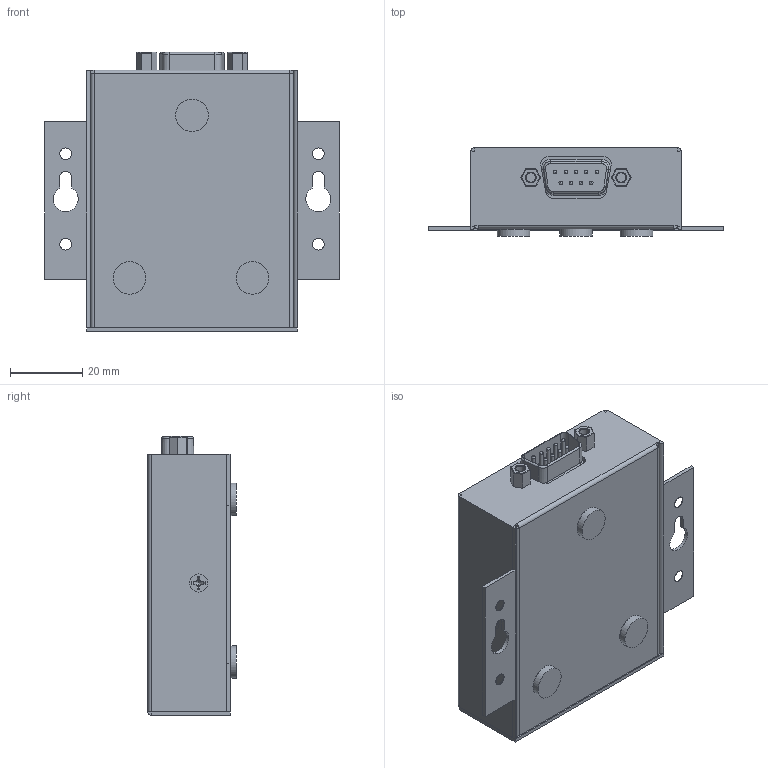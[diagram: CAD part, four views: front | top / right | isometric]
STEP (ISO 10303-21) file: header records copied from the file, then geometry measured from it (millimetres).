
FILE_DESCRIPTION(/* description */ (''),/* implementation_level */ '2;1');
FILE_NAME(/* name */ '/Users/leo/Desktop/Coolgear May/USBG-Com-Si-M/USBG-Com-Si-M Model3D LPV1.step',/* time_stamp */ '2021-08-30T14:25:58-04:00',/* author */ (''),/* organization */ (''),/* preprocessor_version */ 'ST-DEVELOPER v18.1',/* originating_system */ 'Autodesk Translation Framework v10.10.0.1391',/* authorisation */ '');
FILE_SCHEMA (('AUTOMOTIVE_DESIGN { 1 0 10303 214 3 1 1 }'));
Length unit declared in the file: millimetre
Products named in the file (1): FusionComponent
Bounding box: 81.45 x 24.4 x 77.12 mm (x, y, z)
Volume: 28437.9 mm3; surface area: 43205.5 mm2
Topology: 1 solids, 5 shells, 1269 faces, 3635 edges, 2360 vertices
Faces by surface type: plane 902, cylinder 285, cone 41, bspline 16, sphere 15, torus 10
Full cylindrical faces by diameter (mm): 1 x9, 1.8 x3, 2.35 x12, 2.6 x2, 2.8 x2, 2.998 x3, 3 x20, 3.2 x4, 3.643 x3, 5.4 x3, 8.485 x3, 9 x3
Entity records: 46313 total; most frequent: CARTESIAN_POINT 12976, ORIENTED_EDGE 7238, DIRECTION 6474, EDGE_CURVE 3619, LINE 2804, VECTOR 2804, VERTEX_POINT 2360, AXIS2_PLACEMENT_3D 1835
